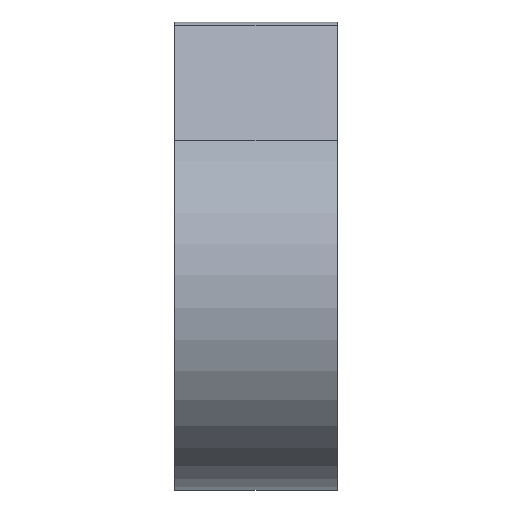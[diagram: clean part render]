
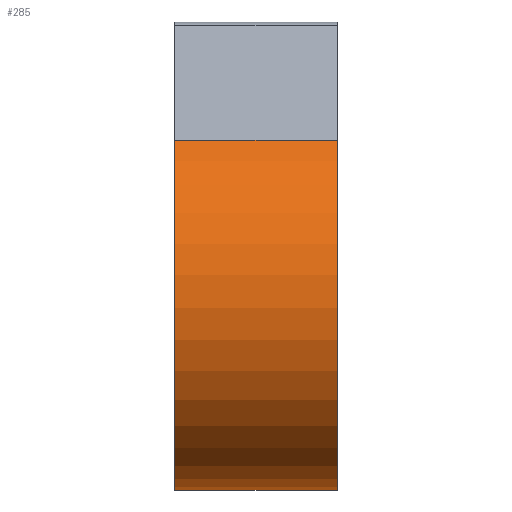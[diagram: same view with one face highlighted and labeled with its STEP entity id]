
A CAD part, left-side view. The second image highlights one B-rep face of the part: STEP entity #285.
In plain terms, the highlighted cylindrical face has radius 2.362 mm (diameter 4.725 mm), a partial arc.
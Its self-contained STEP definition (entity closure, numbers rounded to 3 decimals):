
#13 = FACE_OUTER_BOUND ( 'NONE', #917, .T. ) ;
#29 = DIRECTION ( 'NONE',  ( 0., 0., -1. ) ) ;
#32 = LINE ( 'NONE', #738, #774 ) ;
#75 = EDGE_CURVE ( 'NONE', #600, #113, #694, .T. ) ;
#93 = DIRECTION ( 'NONE',  ( 0., -1., 0. ) ) ;
#94 = AXIS2_PLACEMENT_3D ( 'NONE', #284, #922, #216 ) ;
#113 = VERTEX_POINT ( 'NONE', #711 ) ;
#142 = CARTESIAN_POINT ( 'NONE',  ( -1.355, 2., 2.297 ) ) ;
#147 = ORIENTED_EDGE ( 'NONE', *, *, #187, .T. ) ;
#152 = CIRCLE ( 'NONE', #732, 2.362 ) ;
#165 = CARTESIAN_POINT ( 'NONE',  ( 0., 2., -2. ) ) ;
#169 = DIRECTION ( 'NONE',  ( 0., -1., 0. ) ) ;
#180 = VECTOR ( 'NONE', #93, 1000. ) ;
#187 = EDGE_CURVE ( 'NONE', #875, #600, #311, .T. ) ;
#216 = DIRECTION ( 'NONE',  ( 0., 0., -1. ) ) ;
#220 = ORIENTED_EDGE ( 'NONE', *, *, #439, .F. ) ;
#273 = ORIENTED_EDGE ( 'NONE', *, *, #274, .F. ) ;
#274 = EDGE_CURVE ( 'NONE', #490, #113, #32, .T. ) ;
#284 = CARTESIAN_POINT ( 'NONE',  ( 0., 0., 0.362 ) ) ;
#285 = ADVANCED_FACE ( 'NONE', ( #13 ), #916, .T. ) ;
#311 = LINE ( 'NONE', #165, #180 ) ;
#439 = EDGE_CURVE ( 'NONE', #875, #490, #152, .T. ) ;
#471 = CARTESIAN_POINT ( 'NONE',  ( 0., 2., -2. ) ) ;
#490 = VERTEX_POINT ( 'NONE', #142 ) ;
#524 = CARTESIAN_POINT ( 'NONE',  ( 0., 2., 0.362 ) ) ;
#538 = CARTESIAN_POINT ( 'NONE',  ( 0., 0., -2. ) ) ;
#573 = AXIS2_PLACEMENT_3D ( 'NONE', #524, #883, #29 ) ;
#600 = VERTEX_POINT ( 'NONE', #538 ) ;
#659 = ORIENTED_EDGE ( 'NONE', *, *, #75, .T. ) ;
#694 = CIRCLE ( 'NONE', #94, 2.362 ) ;
#711 = CARTESIAN_POINT ( 'NONE',  ( -1.355, 0., 2.297 ) ) ;
#732 = AXIS2_PLACEMENT_3D ( 'NONE', #864, #800, #868 ) ;
#738 = CARTESIAN_POINT ( 'NONE',  ( -1.355, 2., 2.297 ) ) ;
#774 = VECTOR ( 'NONE', #169, 1000. ) ;
#800 = DIRECTION ( 'NONE',  ( 0., 1., 0. ) ) ;
#864 = CARTESIAN_POINT ( 'NONE',  ( 0., 2., 0.362 ) ) ;
#868 = DIRECTION ( 'NONE',  ( 0., 0., -1. ) ) ;
#875 = VERTEX_POINT ( 'NONE', #471 ) ;
#883 = DIRECTION ( 'NONE',  ( 0., -1., 0. ) ) ;
#916 = CYLINDRICAL_SURFACE ( 'NONE', #573, 2.362 ) ;
#917 = EDGE_LOOP ( 'NONE', ( #659, #273, #220, #147 ) ) ;
#922 = DIRECTION ( 'NONE',  ( 0., 1., 0. ) ) ;
